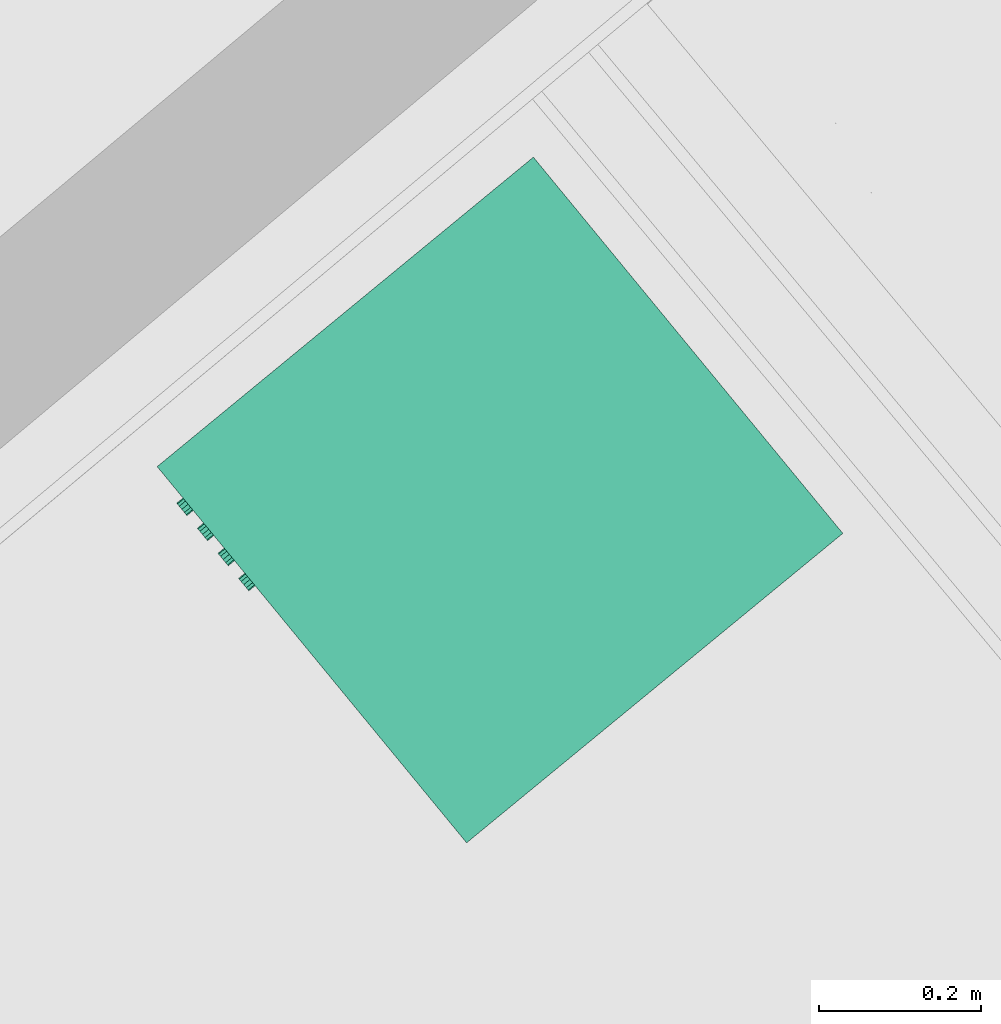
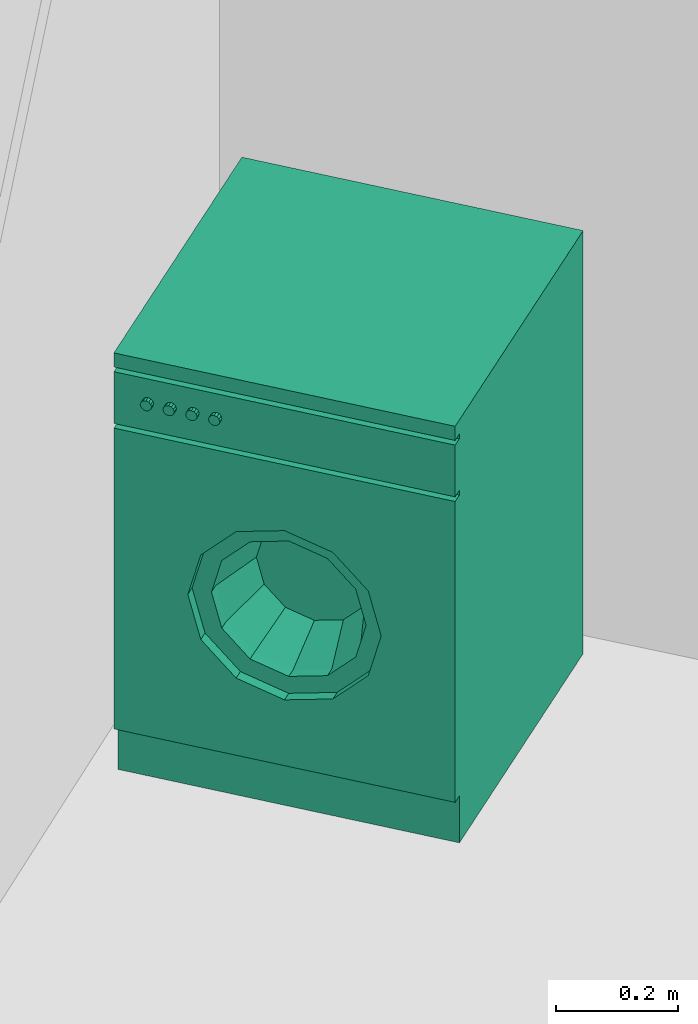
# One storey, part 53 of 61: 1 sanitary terminal.
"""IFC4 building model written with IfcOpenShell, lengths in metres."""

import ifcopenshell
import ifcopenshell.guid

model = None  # the IFC model being written
_history = None  # IfcOwnerHistory: only IFC2X3 demands one
_inside = {}  # id of a spatial element -> (the spatial element, [elements in it])
_under = {}  # id of a project, library or spatial element -> (it, [spatial elements below it])
_declared = {}  # id of a project -> (the project, [libraries it declares])
_typed = {}  # id of a type object -> (the type object, [elements of that type])
_made_of = {}  # id of a material, layer set ... -> (it, [elements and type objects made of it])


def new_model(schema):
    """Start an empty IFC model of exactly this schema.

    Asked for "IFC4X3", IfcOpenShell would pick the latest addendum, in which some entities
    have other attributes; the version numbers below select the first issue.
    IFC2X3 requires an IfcOwnerHistory on every rooted entity: one is made here for all.
    """
    global model, _history
    if schema == "IFC4X3":
        model = ifcopenshell.file(schema_version=(4, 3, 0, 0))
    else:
        model = ifcopenshell.file(schema=schema)
    _inside.clear()
    _under.clear()
    _declared.clear()
    _typed.clear()
    _made_of.clear()
    _history = None
    if model.schema == "IFC2X3":
        org = make("IfcOrganization", Name="unknown")
        user = make(
            "IfcPersonAndOrganization",
            ThePerson=make("IfcPerson", FamilyName="unknown"),
            TheOrganization=org,
        )
        app = make(
            "IfcApplication",
            ApplicationDeveloper=org,
            Version="unknown",
            ApplicationFullName="unknown",
            ApplicationIdentifier="unknown",
        )
        _history = make(
            "IfcOwnerHistory",
            OwningUser=user,
            OwningApplication=app,
            ChangeAction="ADDED",
            CreationDate=0,
        )
    return model


def make(cls, **values):
    """One entity of the class cls with the attributes given. An attribute that is None is left unset."""
    return model.create_entity(
        cls, **{name: value for name, value in values.items() if value is not None}
    )


def entity(cls, *values):
    """Any entity or typed value of the class cls, its attributes in the order of the schema. None: left unset."""
    e = model.create_entity(cls)
    for i, value in enumerate(values):
        if value is not None:
            e[i] = value
    return e


def rooted(cls, **values):
    """An entity with a GlobalId (a new one), such as an element, a storey or a relation."""
    return make(cls, GlobalId=ifcopenshell.guid.new(), OwnerHistory=_history, **values)


def si_unit(unit_type, name, prefix=None):
    """IfcSIUnit, for example si_unit("LENGTHUNIT", "METRE", prefix="MILLI")."""
    return make("IfcSIUnit", UnitType=unit_type, Prefix=prefix, Name=name)


def converted_unit(unit_type, name, factor, base, dimensions=None, offset=None):
    """IfcConversionBasedUnit, such as the inch: factor (a typed value) times the base unit."""
    return make(
        "IfcConversionBasedUnit"
        if offset is None
        else "IfcConversionBasedUnitWithOffset",
        ConversionOffset=offset,
        Dimensions=None
        if dimensions is None
        else entity("IfcDimensionalExponents", *dimensions),
        UnitType=unit_type,
        Name=name,
        ConversionFactor=make(
            "IfcMeasureWithUnit", ValueComponent=factor, UnitComponent=base
        ),
    )


def derived_unit(unit_type, elements):
    """IfcDerivedUnit: a product of units, each with its exponent."""
    return make(
        "IfcDerivedUnit",
        Elements=[
            make("IfcDerivedUnitElement", Unit=unit, Exponent=power)
            for unit, power in elements
        ],
        UnitType=unit_type,
    )


def assignment(units):
    """IfcUnitAssignment: the units of a project."""
    return None if units is None else make("IfcUnitAssignment", Units=units)


def point(xyz):
    """IfcCartesianPoint."""
    return None if xyz is None else make("IfcCartesianPoint", Coordinates=xyz)


def direction(xyz):
    """IfcDirection."""
    return None if xyz is None else make("IfcDirection", DirectionRatios=xyz)


def frame(location, z_axis=None, x_axis=None):
    """IfcAxis2Placement3D, a coordinate frame: its origin and axes. An axis left out is left unset."""
    return make(
        "IfcAxis2Placement3D",
        Location=point(location),
        Axis=direction(z_axis),
        RefDirection=direction(x_axis),
    )


def origin_with_axes():
    """The frame at (0, 0, 0) with the z axis (0, 0, 1) and the x axis (1, 0, 0) written out."""
    return frame((0.0, 0.0, 0.0), z_axis=(0.0, 0.0, 1.0), x_axis=(1.0, 0.0, 0.0))


def place(relative_to, where):
    """IfcLocalPlacement: puts the frame where relative to a parent placement (None: the world)."""
    return make(
        "IfcLocalPlacement", PlacementRelTo=relative_to, RelativePlacement=where
    )


def context(
    kind, dimensions, precision=None, world=None, true_north=None, identifier=None
):
    """IfcGeometricRepresentationContext, for example the 3D "Model" context."""
    return make(
        "IfcGeometricRepresentationContext",
        ContextIdentifier=identifier,
        ContextType=kind,
        CoordinateSpaceDimension=dimensions,
        Precision=precision,
        WorldCoordinateSystem=world,
        TrueNorth=true_north,
    )


def subcontext(parent, identifier, kind, view, scale=None):
    """IfcGeometricRepresentationSubContext, for example "Body" below "Model"."""
    return make(
        "IfcGeometricRepresentationSubContext",
        ContextIdentifier=identifier,
        ContextType=kind,
        ParentContext=parent,
        TargetScale=scale,
        TargetView=view,
    )


def project(units=None, contexts=None):
    """IfcProject with its units and contexts."""
    return rooted(
        "IfcProject",
        Name="project",
        RepresentationContexts=contexts,
        UnitsInContext=assignment(units),
    )


def spatial(cls, under=None, at=None, **own):
    """A site, building, storey or space (cls), placed at a placement, below another one or the project."""
    s = rooted(cls, ObjectPlacement=at, **own)
    if under is not None:
        _under.setdefault(under.id(), (under, []))[1].append(s)
    return s


def point_list(points):
    """IfcCartesianPointList2D or 3D."""
    cls = (
        "IfcCartesianPointList2D" if len(points[0]) == 2 else "IfcCartesianPointList3D"
    )
    return make(cls, CoordList=points)


def polygons(points, faces, closed=None, point_numbers=None):
    """IfcPolygonalFaceSet: a face is its outer loop, then its inner loops; points numbered from 1."""
    made = []
    for loops in faces:
        if len(loops) == 1:
            made.append(make("IfcIndexedPolygonalFace", CoordIndex=loops[0]))
        else:
            made.append(
                make(
                    "IfcIndexedPolygonalFaceWithVoids",
                    CoordIndex=loops[0],
                    InnerCoordIndices=loops[1:],
                )
            )
    return make(
        "IfcPolygonalFaceSet",
        Coordinates=point_list(points),
        Closed=closed,
        Faces=made,
        PnIndex=point_numbers,
    )


def shape(context_of_items, identifier, shape_type, items):
    """IfcShapeRepresentation: the items that make up one representation, for example the "Body"."""
    return make(
        "IfcShapeRepresentation",
        ContextOfItems=context_of_items,
        RepresentationIdentifier=identifier,
        RepresentationType=shape_type,
        Items=items,
    )


def source(mapping_origin, context_of_items, identifier, shape_type, items):
    """IfcRepresentationMap: a shape defined once, which mapped items show again and again."""
    return make(
        "IfcRepresentationMap",
        MappingOrigin=mapping_origin,
        MappedRepresentation=shape(context_of_items, identifier, shape_type, items),
    )


def transform(
    local_origin,
    x_axis=None,
    y_axis=None,
    z_axis=None,
    scale=None,
    scale2=None,
    scale3=None,
    uniform=True,
):
    """IfcCartesianTransformationOperator3D, or its non-uniform kind. x_axis, y_axis, z_axis: its Axis1, 2, 3."""
    if uniform:
        return make(
            "IfcCartesianTransformationOperator3D",
            Axis1=direction(x_axis),
            Axis2=direction(y_axis),
            LocalOrigin=point(local_origin),
            Scale=scale,
            Axis3=direction(z_axis),
        )
    return make(
        "IfcCartesianTransformationOperator3DnonUniform",
        Axis1=direction(x_axis),
        Axis2=direction(y_axis),
        LocalOrigin=point(local_origin),
        Scale=scale,
        Axis3=direction(z_axis),
        Scale2=scale2,
        Scale3=scale3,
    )


def mapped(mapping_source, mapping_target):
    """IfcMappedItem: shows the shape of a source again, moved by a transform."""
    return make(
        "IfcMappedItem", MappingSource=mapping_source, MappingTarget=mapping_target
    )


def made_of(thing, what):
    """Note that an element or type object is made of a material, layer set ...; save() writes the relation."""
    if what is not None:
        _made_of.setdefault(what.id(), (what, []))[1].append(thing)
    return thing


def type_object(cls, material=None, **own):
    """A type object (cls), such as IfcWallType, which elements share."""
    return made_of(rooted(cls, **own), material)


def element(
    cls,
    number,
    at=None,
    inside=None,
    cuts=None,
    type_object=None,
    material=None,
    context=None,
    identifier="Body",
    shape_type=None,
    held_by="IfcProductDefinitionShape",
    body=None,
    shapes=None,
    **own,
):
    """One element of the class cls, such as IfcWall. Its Tag is "e" and its number.

    at: its placement. inside: the storey or other place that contains it. cuts: it is an
    opening in that element (IfcRelVoidsElement). A single representation is given by context,
    identifier, shape_type and body (its items); several are given by shapes. held_by: the class
    of the entity that holds the representations. save() writes the other relations.
    """
    e = rooted(cls, Tag="e%d" % number, ObjectPlacement=at, **own)
    if body is not None:
        shapes = [shape(context, identifier, shape_type, body)]
    if shapes is not None:
        e.Representation = make(held_by, Representations=shapes)
    if inside is not None:
        _inside.setdefault(inside.id(), (inside, []))[1].append(e)
    if cuts is not None:
        rooted(
            "IfcRelVoidsElement", RelatingBuildingElement=cuts, RelatedOpeningElement=e
        )
    if type_object is not None:
        _typed.setdefault(type_object.id(), (type_object, []))[1].append(e)
    return made_of(e, material)


def aggregate(whole, parts):
    """IfcRelAggregates: a whole, such as a stair, and the parts it consists of."""
    return rooted("IfcRelAggregates", RelatingObject=whole, RelatedObjects=parts)


def save(model, path):
    """Write the relations noted so far, then the file.

    IfcRelAggregates (storeys below a building ...), IfcRelContainedInSpatialStructure (elements
    in a storey), IfcRelDefinesByType, IfcRelAssociatesMaterial and IfcRelDeclares: one each for
    every whole, place, type object, material and project.
    """
    for whole, parts in _under.values():
        aggregate(whole, parts)
    for where, things in _inside.values():
        rooted(
            "IfcRelContainedInSpatialStructure",
            RelatedElements=things,
            RelatingStructure=where,
        )
    for kind, things in _typed.values():
        rooted("IfcRelDefinesByType", RelatedObjects=things, RelatingType=kind)
    for what, things in _made_of.values():
        rooted("IfcRelAssociatesMaterial", RelatedObjects=things, RelatingMaterial=what)
    for by, libraries in _declared.values():
        rooted("IfcRelDeclares", RelatingContext=by, RelatedDefinitions=libraries)
    model.write(path)


model = new_model("IFC4")

# Units and contexts
model_context = context("Model", 3, precision=1e-05, world=origin_with_axes(), true_north=direction((0.0, 1.0)))
body_context = subcontext(model_context, "Body", "Model", "MODEL_VIEW")
ifc_project = project(units=[si_unit("LENGTHUNIT", "METRE"), si_unit("AREAUNIT", "SQUARE_METRE"), si_unit("VOLUMEUNIT", "CUBIC_METRE"), converted_unit("PLANEANGLEUNIT", "DEGREE", entity("IfcPlaneAngleMeasure", 0.0174532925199), si_unit("PLANEANGLEUNIT", "RADIAN"), dimensions=[0, 0, 0, 0, 0, 0, 0]), converted_unit("TIMEUNIT", "Year", entity("IfcTimeMeasure", 31556926.0), si_unit("TIMEUNIT", "SECOND"), dimensions=[0, 0, 1, 0, 0, 0, 0]), si_unit("MASSUNIT", "GRAM", prefix="KILO"), si_unit("THERMODYNAMICTEMPERATUREUNIT", "DEGREE_CELSIUS"), si_unit("LUMINOUSINTENSITYUNIT", "LUMEN"), si_unit("ENERGYUNIT", "JOULE", prefix="MEGA"), derived_unit("THERMALCONDUCTANCEUNIT", [(si_unit("POWERUNIT", "WATT"), 1), (si_unit("LENGTHUNIT", "METRE"), -1), (si_unit("THERMODYNAMICTEMPERATUREUNIT", "KELVIN"), -1)]), derived_unit("SPECIFICHEATCAPACITYUNIT", [(si_unit("ENERGYUNIT", "JOULE"), 1), (si_unit("MASSUNIT", "GRAM", prefix="KILO"), -1), (si_unit("THERMODYNAMICTEMPERATUREUNIT", "KELVIN"), -1)]), derived_unit("MASSDENSITYUNIT", [(si_unit("MASSUNIT", "GRAM", prefix="KILO"), 1), (si_unit("VOLUMEUNIT", "CUBIC_METRE"), -1)])], contexts=[model_context])

# Site, building, storey, space
site_placement = place(None, frame((-0.00153261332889, -0.00661245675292, 0.0), z_axis=(0.0, 0.0, 1.0), x_axis=(1.0, 0.0, 0.0)))
site = spatial("IfcSite", under=ifc_project, at=site_placement, Name="Gelände", CompositionType="ELEMENT")
building_placement = place(site_placement, origin_with_axes())
building = spatial("IfcBuilding", under=site, at=building_placement, Name="Gebäude", CompositionType="ELEMENT")
storey_placement = place(building_placement, frame((0.0, 0.0, 5.7), z_axis=(0.0, 0.0, 1.0), x_axis=(1.0, 0.0, 0.0)))
storey = spatial("IfcBuildingStorey", under=building, at=storey_placement, Name="DG1", CompositionType="ELEMENT", Elevation=5.7)
space_placement = place(storey_placement, frame((-2.15759184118, 20.2157118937, 0.22), z_axis=(0.0, 0.0, 1.0), x_axis=(-0.767062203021, -0.641572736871, 0.0)))
space = spatial("IfcSpace", under=storey, at=space_placement, CompositionType="ELEMENT", PredefinedType="NOTDEFINED")

# Sanitary terminal
sanitary_terminal_type = type_object("IfcSanitaryTerminalType", Name="Waschmaschine 01 26", PredefinedType="NOTDEFINED")
shared_shape = source(origin_with_axes(), body_context, "Body", "Tessellation", [
    polygons([(-0.3, -0.58, 0.0944444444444), (0.3, -0.58, 0.0944444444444), (0.3, -0.6, 0.0944444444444), (-0.3, -0.6, 0.0944444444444), (-0.3, -0.58, 0.698888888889), (0.3, -0.58, 0.698888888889), (0.17, -0.58, 0.396666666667), (0.147224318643, -0.58, 0.481666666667), (0.085, -0.58, 0.54389098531), (0.0, -0.58, 0.566666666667), (-0.085, -0.58, 0.54389098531), (-0.147224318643, -0.58, 0.481666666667), (-0.17, -0.58, 0.396666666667), (-0.147224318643, -0.58, 0.311666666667), (-0.085, -0.58, 0.249442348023), (0.0, -0.58, 0.226666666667), (0.085, -0.58, 0.249442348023), (0.147224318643, -0.58, 0.311666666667), (0.3, -0.6, 0.698888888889), (-0.3, -0.6, 0.698888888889), (0.17, -0.6, 0.396666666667), (0.147224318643, -0.6, 0.311666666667), (0.085, -0.6, 0.249442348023), (0.0, -0.6, 0.226666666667), (-0.085, -0.6, 0.249442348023), (-0.147224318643, -0.6, 0.311666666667), (-0.17, -0.6, 0.396666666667), (-0.147224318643, -0.6, 0.481666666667), (-0.085, -0.6, 0.54389098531), (0.0, -0.6, 0.566666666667), (0.085, -0.6, 0.54389098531), (0.147224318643, -0.6, 0.481666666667)], [[[1, 2, 3, 4]], [[1, 5, 6, 2], [7, 8, 9, 10, 11, 12, 13, 14, 15, 16, 17, 18]], [[2, 6, 19, 3]], [[4, 3, 19, 20], [21, 22, 23, 24, 25, 26, 27, 28, 29, 30, 31, 32]], [[5, 1, 4, 20]], [[6, 5, 20, 19]], [[8, 7, 21, 32]], [[9, 8, 32, 31]], [[10, 9, 31, 30]], [[11, 10, 30, 29]], [[12, 11, 29, 28]], [[13, 12, 28, 27]], [[14, 13, 27, 26]], [[15, 14, 26, 25]], [[16, 15, 25, 24]], [[17, 16, 24, 23]], [[18, 17, 23, 22]], [[7, 18, 22, 21]]], closed=True),
    polygons([(0.17, -0.56, 0.396666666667), (0.147224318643, -0.56, 0.481666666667), (0.147224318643, -0.58, 0.481666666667), (0.17, -0.58, 0.396666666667), (0.147224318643, -0.56, 0.311666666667), (0.085, -0.56, 0.249442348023), (0.0, -0.56, 0.226666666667), (-0.085, -0.56, 0.249442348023), (-0.147224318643, -0.56, 0.311666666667), (-0.17, -0.56, 0.396666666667), (-0.147224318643, -0.56, 0.481666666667), (-0.085, -0.56, 0.54389098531), (0.0, -0.56, 0.566666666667), (0.085, -0.56, 0.54389098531), (0.136, -0.56, 0.396666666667), (0.117779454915, -0.56, 0.464666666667), (0.068, -0.56, 0.514446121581), (0.0, -0.56, 0.532666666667), (-0.068, -0.56, 0.514446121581), (-0.117779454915, -0.56, 0.464666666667), (-0.136, -0.56, 0.396666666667), (-0.117779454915, -0.56, 0.328666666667), (-0.068, -0.56, 0.278887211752), (0.0, -0.56, 0.260666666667), (0.068, -0.56, 0.278887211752), (0.117779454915, -0.56, 0.328666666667), (0.085, -0.58, 0.54389098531), (0.0, -0.58, 0.566666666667), (-0.085, -0.58, 0.54389098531), (-0.147224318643, -0.58, 0.481666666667), (-0.17, -0.58, 0.396666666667), (-0.147224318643, -0.58, 0.311666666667), (-0.085, -0.58, 0.249442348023), (0.0, -0.58, 0.226666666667), (0.085, -0.58, 0.249442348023), (0.147224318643, -0.58, 0.311666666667), (0.136, -0.58, 0.396666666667), (0.117779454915, -0.58, 0.328666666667), (0.068, -0.58, 0.278887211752), (0.0, -0.58, 0.260666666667), (-0.068, -0.58, 0.278887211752), (-0.117779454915, -0.58, 0.328666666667), (-0.136, -0.58, 0.396666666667), (-0.117779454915, -0.58, 0.464666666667), (-0.068, -0.58, 0.514446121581), (0.0, -0.58, 0.532666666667), (0.068, -0.58, 0.514446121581), (0.117779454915, -0.58, 0.464666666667)], [[[1, 2, 3, 4]], [[1, 5, 6, 7, 8, 9, 10, 11, 12, 13, 14, 2], [15, 16, 17, 18, 19, 20, 21, 22, 23, 24, 25, 26]], [[2, 14, 27, 3]], [[4, 3, 27, 28, 29, 30, 31, 32, 33, 34, 35, 36], [37, 38, 39, 40, 41, 42, 43, 44, 45, 46, 47, 48]], [[5, 1, 4, 36]], [[6, 5, 36, 35]], [[7, 6, 35, 34]], [[8, 7, 34, 33]], [[9, 8, 33, 32]], [[10, 9, 32, 31]], [[11, 10, 31, 30]], [[12, 11, 30, 29]], [[13, 12, 29, 28]], [[14, 13, 28, 27]], [[16, 15, 37, 48]], [[17, 16, 48, 47]], [[18, 17, 47, 46]], [[19, 18, 46, 45]], [[20, 19, 45, 44]], [[21, 20, 44, 43]], [[22, 21, 43, 42]], [[23, 22, 42, 41]], [[24, 23, 41, 40]], [[25, 24, 40, 39]], [[26, 25, 39, 38]], [[15, 26, 38, 37]]], closed=True),
    polygons([(-0.068, -0.56, 0.514446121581), (0.0, -0.56, 0.532666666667), (0.0, -0.46, 0.498666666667), (-0.051, -0.46, 0.485001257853), (0.068, -0.56, 0.514446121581), (0.051, -0.46, 0.485001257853), (0.088334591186, -0.46, 0.447666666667), (0.102, -0.46, 0.396666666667), (0.088334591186, -0.46, 0.345666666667), (0.051, -0.46, 0.308332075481), (0.0, -0.46, 0.294666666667), (-0.051, -0.46, 0.308332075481), (-0.088334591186, -0.46, 0.345666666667), (-0.102, -0.46, 0.396666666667), (-0.088334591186, -0.46, 0.447666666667), (-0.117779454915, -0.56, 0.464666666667), (0.117779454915, -0.56, 0.464666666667), (0.136, -0.56, 0.396666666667), (0.117779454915, -0.56, 0.328666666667), (0.068, -0.56, 0.278887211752), (0.0, -0.56, 0.260666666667), (-0.068, -0.56, 0.278887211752), (-0.117779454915, -0.56, 0.328666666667), (-0.136, -0.56, 0.396666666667)], [[[1, 2, 3, 4]], [[2, 5, 6, 3]], [[3, 6, 7, 8, 9, 10, 11, 12, 13, 14, 15, 4]], [[16, 1, 4, 15]], [[5, 17, 7, 6]], [[17, 18, 8, 7]], [[18, 19, 9, 8]], [[19, 20, 10, 9]], [[20, 21, 11, 10]], [[21, 22, 12, 11]], [[22, 23, 13, 12]], [[23, 24, 14, 13]], [[24, 16, 15, 14]]], closed=False),
    polygons([(-0.3, -0.58, 0.0944444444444), (-0.3, -0.58, 0.821666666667), (-0.3, 0.0, 0.821666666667), (-0.3, 0.0, 0.0944444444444)], [[[1, 2, 3, 4]]], closed=False),
    polygons([(0.3, -0.58, 0.0944444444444), (0.3, -0.58, 0.821666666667), (0.3, 0.0, 0.821666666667), (0.3, 0.0, 0.0944444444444)], [[[1, 2, 3, 4]]], closed=False),
    polygons([(-0.3, 0.0, 0.0944444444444), (-0.3, 0.0, 0.821666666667), (0.3, 0.0, 0.821666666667), (0.3, 0.0, 0.0944444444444)], [[[1, 2, 3, 4]]], closed=False),
    polygons([(-0.3, -0.58, 0.0), (0.3, -0.58, 0.0), (0.3, -0.58, 0.0944444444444), (-0.3, -0.58, 0.0944444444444), (-0.3, 0.0, 0.0), (0.3, 0.0, 0.0), (0.3, 0.0, 0.0944444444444), (-0.3, 0.0, 0.0944444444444)], [[[1, 2, 3, 4]], [[1, 5, 6, 2]], [[2, 6, 7, 3]], [[4, 3, 7, 8]], [[5, 1, 4, 8]], [[6, 5, 8, 7]]], closed=True),
    polygons([(-0.3, -0.58, 0.708333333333), (0.3, -0.58, 0.708333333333), (0.3, -0.6, 0.708333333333), (-0.3, -0.6, 0.708333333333), (-0.3, -0.58, 0.812222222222), (0.3, -0.58, 0.812222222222), (0.3, -0.6, 0.812222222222), (-0.3, -0.6, 0.812222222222)], [[[1, 2, 3, 4]], [[1, 5, 6, 2]], [[2, 6, 7, 3]], [[4, 3, 7, 8]], [[5, 1, 4, 8]], [[6, 5, 8, 7]]], closed=True),
    polygons([(-0.3, -0.58, 0.698888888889), (-0.3, -0.58, 0.821666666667), (0.3, -0.58, 0.821666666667), (0.3, -0.58, 0.698888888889)], [[[1, 2, 3, 4]]], closed=False),
    polygons([(-0.3, -0.6, 0.821666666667), (0.3, -0.6, 0.821666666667), (0.3, -0.6, 0.85), (-0.3, -0.6, 0.85), (-0.3, 0.0, 0.821666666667), (0.3, 0.0, 0.821666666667), (0.3, 0.0, 0.85), (-0.3, 0.0, 0.85)], [[[1, 2, 3, 4]], [[1, 5, 6, 2]], [[2, 6, 7, 3]], [[4, 3, 7, 8]], [[5, 1, 4, 8]], [[6, 5, 8, 7]]], closed=True),
    polygons([(-0.231339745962, -0.6, 0.76), (-0.235, -0.6, 0.756339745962), (-0.24, -0.6, 0.755), (-0.245, -0.6, 0.756339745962), (-0.248660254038, -0.6, 0.76), (-0.25, -0.6, 0.765), (-0.248660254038, -0.6, 0.77), (-0.245, -0.6, 0.773660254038), (-0.24, -0.6, 0.775), (-0.235, -0.6, 0.773660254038), (-0.231339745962, -0.6, 0.77), (-0.23, -0.6, 0.765), (-0.231339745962, -0.61, 0.76), (-0.235, -0.61, 0.756339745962), (-0.24, -0.61, 0.755), (-0.245, -0.61, 0.756339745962), (-0.248660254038, -0.61, 0.76), (-0.25, -0.61, 0.765), (-0.248660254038, -0.61, 0.77), (-0.245, -0.61, 0.773660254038), (-0.24, -0.61, 0.775), (-0.235, -0.61, 0.773660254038), (-0.231339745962, -0.61, 0.77), (-0.23, -0.61, 0.765)], [[[1, 2, 3, 4, 5, 6, 7, 8, 9, 10, 11, 12]], [[2, 1, 13, 14]], [[3, 2, 14, 15]], [[4, 3, 15, 16]], [[5, 4, 16, 17]], [[6, 5, 17, 18]], [[7, 6, 18, 19]], [[8, 7, 19, 20]], [[9, 8, 20, 21]], [[10, 9, 21, 22]], [[11, 10, 22, 23]], [[12, 11, 23, 24]], [[1, 12, 24, 13]], [[13, 24, 23, 22, 21, 20, 19, 18, 17, 16, 15, 14]]], closed=True),
    polygons([(-0.191339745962, -0.6, 0.76), (-0.195, -0.6, 0.756339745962), (-0.2, -0.6, 0.755), (-0.205, -0.6, 0.756339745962), (-0.208660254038, -0.6, 0.76), (-0.21, -0.6, 0.765), (-0.208660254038, -0.6, 0.77), (-0.205, -0.6, 0.773660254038), (-0.2, -0.6, 0.775), (-0.195, -0.6, 0.773660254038), (-0.191339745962, -0.6, 0.77), (-0.19, -0.6, 0.765), (-0.191339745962, -0.61, 0.76), (-0.195, -0.61, 0.756339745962), (-0.2, -0.61, 0.755), (-0.205, -0.61, 0.756339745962), (-0.208660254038, -0.61, 0.76), (-0.21, -0.61, 0.765), (-0.208660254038, -0.61, 0.77), (-0.205, -0.61, 0.773660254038), (-0.2, -0.61, 0.775), (-0.195, -0.61, 0.773660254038), (-0.191339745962, -0.61, 0.77), (-0.19, -0.61, 0.765)], [[[1, 2, 3, 4, 5, 6, 7, 8, 9, 10, 11, 12]], [[2, 1, 13, 14]], [[3, 2, 14, 15]], [[4, 3, 15, 16]], [[5, 4, 16, 17]], [[6, 5, 17, 18]], [[7, 6, 18, 19]], [[8, 7, 19, 20]], [[9, 8, 20, 21]], [[10, 9, 21, 22]], [[11, 10, 22, 23]], [[12, 11, 23, 24]], [[1, 12, 24, 13]], [[13, 24, 23, 22, 21, 20, 19, 18, 17, 16, 15, 14]]], closed=True),
    polygons([(-0.151339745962, -0.6, 0.76), (-0.155, -0.6, 0.756339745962), (-0.16, -0.6, 0.755), (-0.165, -0.6, 0.756339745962), (-0.168660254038, -0.6, 0.76), (-0.17, -0.6, 0.765), (-0.168660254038, -0.6, 0.77), (-0.165, -0.6, 0.773660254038), (-0.16, -0.6, 0.775), (-0.155, -0.6, 0.773660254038), (-0.151339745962, -0.6, 0.77), (-0.15, -0.6, 0.765), (-0.151339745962, -0.61, 0.76), (-0.155, -0.61, 0.756339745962), (-0.16, -0.61, 0.755), (-0.165, -0.61, 0.756339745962), (-0.168660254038, -0.61, 0.76), (-0.17, -0.61, 0.765), (-0.168660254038, -0.61, 0.77), (-0.165, -0.61, 0.773660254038), (-0.16, -0.61, 0.775), (-0.155, -0.61, 0.773660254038), (-0.151339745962, -0.61, 0.77), (-0.15, -0.61, 0.765)], [[[1, 2, 3, 4, 5, 6, 7, 8, 9, 10, 11, 12]], [[2, 1, 13, 14]], [[3, 2, 14, 15]], [[4, 3, 15, 16]], [[5, 4, 16, 17]], [[6, 5, 17, 18]], [[7, 6, 18, 19]], [[8, 7, 19, 20]], [[9, 8, 20, 21]], [[10, 9, 21, 22]], [[11, 10, 22, 23]], [[12, 11, 23, 24]], [[1, 12, 24, 13]], [[13, 24, 23, 22, 21, 20, 19, 18, 17, 16, 15, 14]]], closed=True),
    polygons([(-0.111339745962, -0.6, 0.76), (-0.115, -0.6, 0.756339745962), (-0.12, -0.6, 0.755), (-0.125, -0.6, 0.756339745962), (-0.128660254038, -0.6, 0.76), (-0.13, -0.6, 0.765), (-0.128660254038, -0.6, 0.77), (-0.125, -0.6, 0.773660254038), (-0.12, -0.6, 0.775), (-0.115, -0.6, 0.773660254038), (-0.111339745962, -0.6, 0.77), (-0.11, -0.6, 0.765), (-0.111339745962, -0.61, 0.76), (-0.115, -0.61, 0.756339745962), (-0.12, -0.61, 0.755), (-0.125, -0.61, 0.756339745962), (-0.128660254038, -0.61, 0.76), (-0.13, -0.61, 0.765), (-0.128660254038, -0.61, 0.77), (-0.125, -0.61, 0.773660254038), (-0.12, -0.61, 0.775), (-0.115, -0.61, 0.773660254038), (-0.111339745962, -0.61, 0.77), (-0.11, -0.61, 0.765)], [[[1, 2, 3, 4, 5, 6, 7, 8, 9, 10, 11, 12]], [[2, 1, 13, 14]], [[3, 2, 14, 15]], [[4, 3, 15, 16]], [[5, 4, 16, 17]], [[6, 5, 17, 18]], [[7, 6, 18, 19]], [[8, 7, 19, 20]], [[9, 8, 20, 21]], [[10, 9, 21, 22]], [[11, 10, 22, 23]], [[12, 11, 23, 24]], [[1, 12, 24, 13]], [[13, 24, 23, 22, 21, 20, 19, 18, 17, 16, 15, 14]]], closed=True),
])
sanitary_terminal_placement = place(space_placement, frame((-1.23258057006, 0.356224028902, 0.0), z_axis=(0.0, 0.0, 1.0), x_axis=(0.00823819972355, 0.999966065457, 0.0)))
element("IfcSanitaryTerminal", 1, at=sanitary_terminal_placement, inside=space, type_object=sanitary_terminal_type, Name="Objekt-0002", PredefinedType="NOTDEFINED", context=body_context, shape_type="MappedRepresentation", body=[
    mapped(shared_shape, transform((0.0, 0.0, 0.0))),
])

save(model, "model.ifc")
